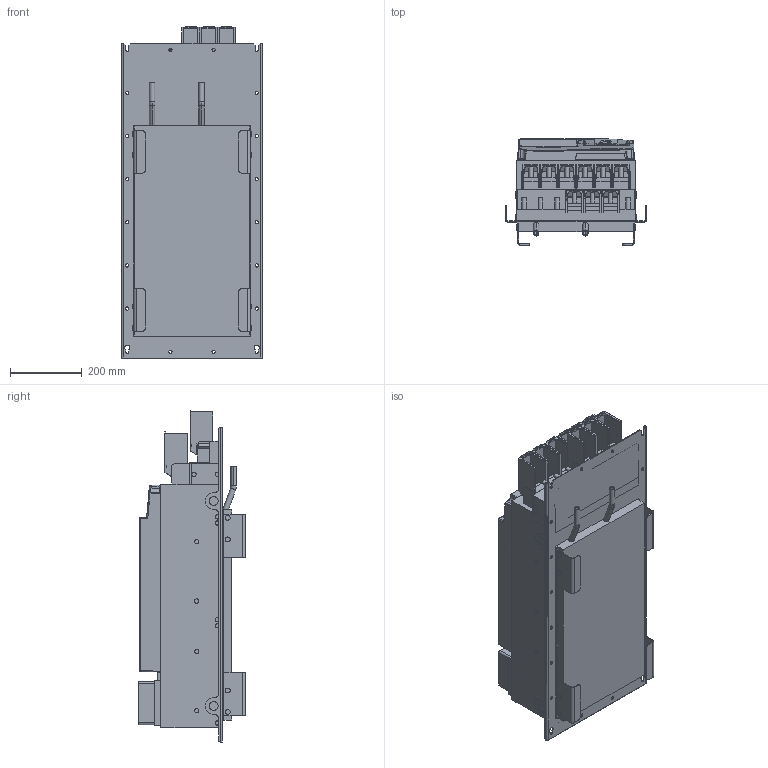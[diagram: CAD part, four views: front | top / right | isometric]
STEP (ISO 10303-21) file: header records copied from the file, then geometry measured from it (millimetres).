
FILE_DESCRIPTION (( 'STEP AP214' ), '1' );
FILE_NAME ('F6-8TW5-P150.STEP', '2021-03-10T15:30:02', ( '' ), ( '' ), 'SwSTEP 2.0', 'SolidWorks 2019', '' );
FILE_SCHEMA (( 'AUTOMOTIVE_DESIGN' ));
Length unit declared in the file: millimetre
Products named in the file (13): 10059764_000_Blindabdeckung (Kundenmodell); 10051076_000_Kundenmodell; 10047771_000_Kundenmodell; 10063225_000; 10063180_000; 10040552_000_Kundenmodell; 10063964_000; 10063936_000_F6-8 Leistungsteil TW5 (Kundenmodell); 10059765_000; 10063199_000; 10059762_000_Kundenmodell mit Geberbuchsen; 10038044_000_Kundemodell; F6-8TW5-P150
Assembly tree (12 placements, depth 4):
  F6-8TW5-P150
    10063936_000_F6-8 Leistungsteil TW5 (Kundenmodell)
      10038044_000_Kundemodell
        10063180_000
      10063964_000
    10040552_000_Kundenmodell
      10047771_000_Kundenmodell
        10063225_000
      10063199_000
    10051076_000_Kundenmodell
      10059764_000_Blindabdeckung (Kundenmodell)
        10059765_000
      10059762_000_Kundenmodell mit Geberbuchsen
Bounding box: 392 x 296.9 x 923.32 mm (x, y, z)
Volume: 61511319.5 mm3; surface area: 2880126.7 mm2
Topology: 6 solids, 30 shells, 2813 faces, 7188 edges, 4457 vertices
Faces by surface type: plane 1452, cylinder 833, bspline 223, sphere 154, cone 98, torus 53
Entity records: 90716 total; most frequent: CARTESIAN_POINT 24160, ORIENTED_EDGE 14154, DIRECTION 13204, EDGE_CURVE 7077, LINE 4498, VECTOR 4498, VERTEX_POINT 4454, AXIS2_PLACEMENT_3D 4353
